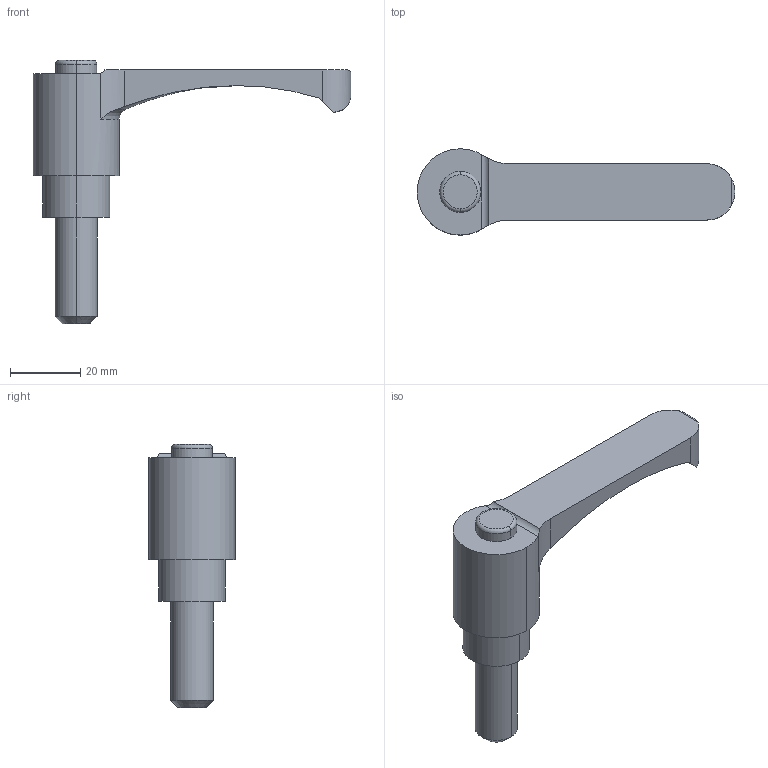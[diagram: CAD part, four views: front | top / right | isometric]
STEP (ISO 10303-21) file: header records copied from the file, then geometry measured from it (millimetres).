
FILE_DESCRIPTION (( 'STEP AP203' ), '1' );
FILE_NAME ('efal78ax30-sus.STEP', '2021-10-25T01:55:27', ( '' ), ( '' ), 'SwSTEP 2.0', 'SolidWorks 2020', '' );
FILE_SCHEMA (( 'CONFIG_CONTROL_DESIGN' ));
Length unit declared in the file: millimetre
Products named in the file (1): efal78ax30-sus
Bounding box: 90.25 x 24.5 x 74.7 mm (x, y, z)
Volume: 28032 mm3; surface area: 8087 mm2
Topology: 1 solids, 1 shells, 34 faces, 83 edges, 55 vertices
Faces by surface type: cylinder 16, plane 11, torus 5, cone 2
Entity records: 1220 total; most frequent: CARTESIAN_POINT 343, DIRECTION 169, ORIENTED_EDGE 166, EDGE_CURVE 83, AXIS2_PLACEMENT_3D 71, VERTEX_POINT 55, EDGE_LOOP 38, CIRCLE 36
